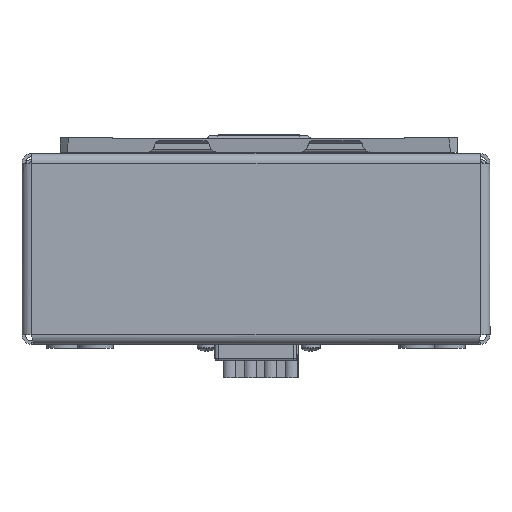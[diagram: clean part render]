
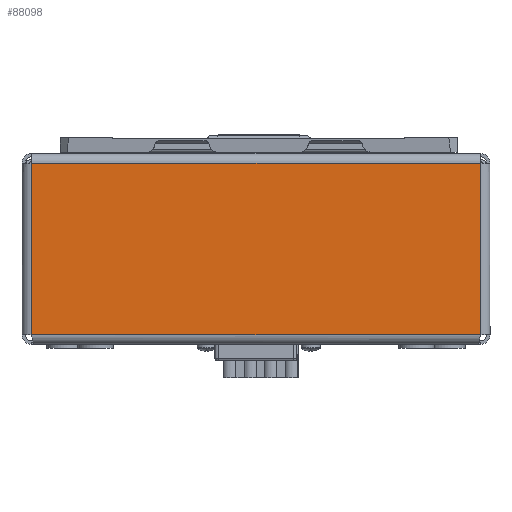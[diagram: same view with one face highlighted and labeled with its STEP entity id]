
A CAD part, front view. The second image highlights one B-rep face of the part: STEP entity #88098.
In plain terms, the highlighted planar face has unit normal (0, -1, 0).
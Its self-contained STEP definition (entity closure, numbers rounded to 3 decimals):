
#2204 = CARTESIAN_POINT ( 'NONE',  ( 84.247, -9.807, 219.093 ) ) ;
#6934 = VECTOR ( 'NONE', #294040, 1000. ) ;
#17604 = VERTEX_POINT ( 'NONE', #37712 ) ;
#18430 = LINE ( 'NONE', #206566, #87370 ) ;
#33524 = EDGE_LOOP ( 'NONE', ( #131882, #67769, #41502, #307235 ) ) ;
#37712 = CARTESIAN_POINT ( 'NONE',  ( 166.247, -9.807, 215.593 ) ) ;
#41502 = ORIENTED_EDGE ( 'NONE', *, *, #307920, .T. ) ;
#47274 = LINE ( 'NONE', #256085, #241833 ) ;
#59928 = FACE_OUTER_BOUND ( 'NONE', #33524, .T. ) ;
#67769 = ORIENTED_EDGE ( 'NONE', *, *, #319231, .T. ) ;
#73852 = CARTESIAN_POINT ( 'NONE',  ( 2.247, -9.807, 215.593 ) ) ;
#76434 = DIRECTION ( 'NONE',  ( 1., 0., 0. ) ) ;
#86936 = CARTESIAN_POINT ( 'NONE',  ( 2.247, -9.807, 219.093 ) ) ;
#87370 = VECTOR ( 'NONE', #76434, 1000. ) ;
#88098 = ADVANCED_FACE ( 'NONE', ( #59928 ), #211583, .F. ) ;
#105299 = DIRECTION ( 'NONE',  ( 0., 0., 1. ) ) ;
#108639 = DIRECTION ( 'NONE',  ( 0., 1., 0. ) ) ;
#122569 = DIRECTION ( 'NONE',  ( 1., 0., 0. ) ) ;
#131882 = ORIENTED_EDGE ( 'NONE', *, *, #177783, .F. ) ;
#156686 = VECTOR ( 'NONE', #122569, 1000. ) ;
#162041 = VERTEX_POINT ( 'NONE', #73852 ) ;
#175514 = AXIS2_PLACEMENT_3D ( 'NONE', #2204, #108639, #105299 ) ;
#177783 = EDGE_CURVE ( 'NONE', #162041, #17604, #290193, .T. ) ;
#181794 = CARTESIAN_POINT ( 'NONE',  ( 166.247, -9.807, 152.879 ) ) ;
#189279 = LINE ( 'NONE', #86936, #6934 ) ;
#196921 = VERTEX_POINT ( 'NONE', #181794 ) ;
#206566 = CARTESIAN_POINT ( 'NONE',  ( 84.247, -9.807, 152.879 ) ) ;
#211583 = PLANE ( 'NONE',  #175514 ) ;
#236671 = CARTESIAN_POINT ( 'NONE',  ( 2.247, -9.807, 152.879 ) ) ;
#241833 = VECTOR ( 'NONE', #254960, 1000. ) ;
#254960 = DIRECTION ( 'NONE',  ( 0., 0., 1. ) ) ;
#256085 = CARTESIAN_POINT ( 'NONE',  ( 166.247, -9.807, 219.093 ) ) ;
#277636 = CARTESIAN_POINT ( 'NONE',  ( 166.247, -9.807, 215.593 ) ) ;
#290193 = LINE ( 'NONE', #277636, #156686 ) ;
#294040 = DIRECTION ( 'NONE',  ( 0., 0., -1. ) ) ;
#307235 = ORIENTED_EDGE ( 'NONE', *, *, #334773, .T. ) ;
#307920 = EDGE_CURVE ( 'NONE', #328099, #196921, #18430, .T. ) ;
#319231 = EDGE_CURVE ( 'NONE', #162041, #328099, #189279, .T. ) ;
#328099 = VERTEX_POINT ( 'NONE', #236671 ) ;
#334773 = EDGE_CURVE ( 'NONE', #196921, #17604, #47274, .T. ) ;
